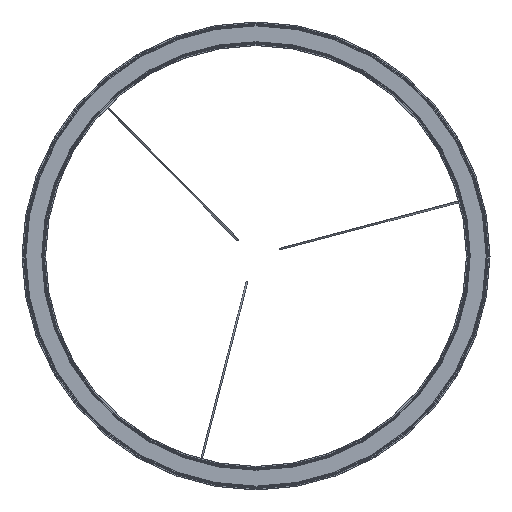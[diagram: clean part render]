
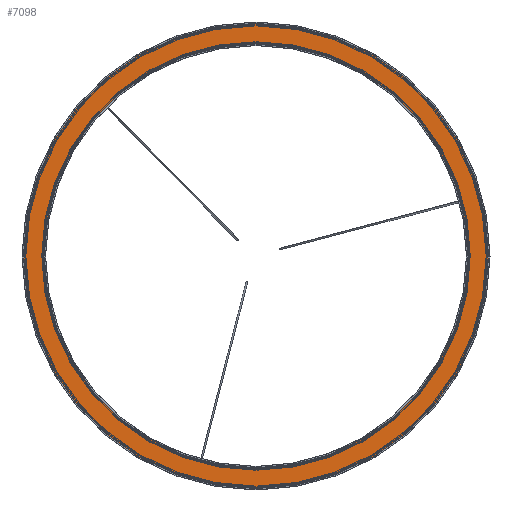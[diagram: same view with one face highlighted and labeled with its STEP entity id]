
A CAD part, top view. The second image highlights one B-rep face of the part: STEP entity #7098.
In plain terms, the highlighted planar face has unit normal (0, 0, 1).
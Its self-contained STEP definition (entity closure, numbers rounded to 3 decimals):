
#535=PLANE('',#7716);
#858=CIRCLE('',#7711,335.45);
#861=CIRCLE('',#7717,367.55);
#1918=ORIENTED_EDGE('',*,*,#2586,.T.);
#1919=ORIENTED_EDGE('',*,*,#2583,.F.);
#2583=EDGE_CURVE('',#3054,#3054,#858,.T.);
#2586=EDGE_CURVE('',#3057,#3057,#861,.T.);
#3054=VERTEX_POINT('',#10868);
#3057=VERTEX_POINT('',#10877);
#3724=EDGE_LOOP('',(#1918));
#3725=EDGE_LOOP('',(#1919));
#4273=FACE_BOUND('',#3724,.T.);
#4274=FACE_BOUND('',#3725,.T.);
#7098=ADVANCED_FACE('',(#4273,#4274),#535,.T.);
#7711=AXIS2_PLACEMENT_3D('',#10867,#9027,#9028);
#7716=AXIS2_PLACEMENT_3D('',#10875,#9037,#9038);
#7717=AXIS2_PLACEMENT_3D('',#10876,#9039,#9040);
#9027=DIRECTION('',(0.,0.,1.));
#9028=DIRECTION('',(-1.,0.,0.));
#9037=DIRECTION('',(0.,0.,1.));
#9038=DIRECTION('',(-1.,0.,0.));
#9039=DIRECTION('',(0.,0.,1.));
#9040=DIRECTION('',(-1.,0.,0.));
#10867=CARTESIAN_POINT('',(0.,0.,36.));
#10868=CARTESIAN_POINT('',(-335.45,0.,36.));
#10875=CARTESIAN_POINT('',(-335.45,0.,36.));
#10876=CARTESIAN_POINT('',(0.,0.,36.));
#10877=CARTESIAN_POINT('',(-367.55,0.,36.));
